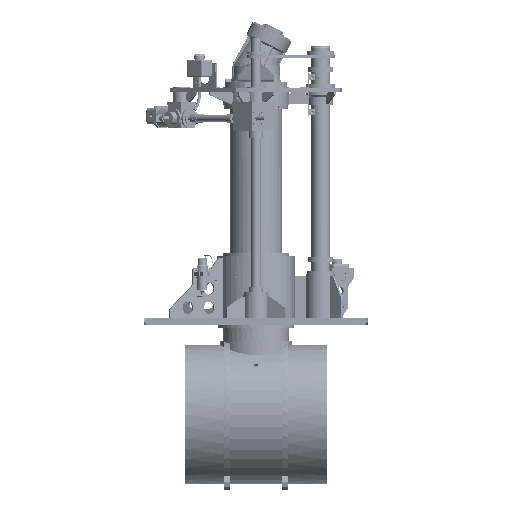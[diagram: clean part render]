
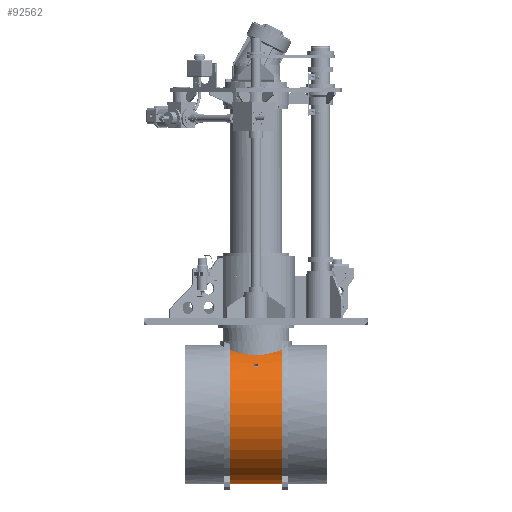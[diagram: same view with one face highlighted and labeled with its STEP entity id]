
A CAD part, front view. The second image highlights one B-rep face of the part: STEP entity #92562.
In plain terms, the highlighted cylindrical face has radius 426.4 mm (diameter 852.8 mm), a partial arc.
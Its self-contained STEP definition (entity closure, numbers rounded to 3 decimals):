
#2134=B_SPLINE_CURVE_WITH_KNOTS('',3,(#178332,#178333,#178334,#178335,#178336,
#178337,#178338,#178339,#178340,#178341),.UNSPECIFIED.,.F.,.F.,(4,2,2,2,
4),(6.781,7.346,7.911,8.476,
9.041),.UNSPECIFIED.);
#2135=B_SPLINE_CURVE_WITH_KNOTS('',3,(#178343,#178344,#178345,#178346,#178347,
#178348,#178349,#178350,#178351,#178352,#178353,#178354,#178355,#178356,
#178357,#178358,#178359,#178360),.UNSPECIFIED.,.F.,.F.,(4,2,2,2,2,2,2,2,
4),(2.26,2.825,3.39,3.956,
4.521,5.086,5.651,6.216,6.781),
 .UNSPECIFIED.);
#2136=B_SPLINE_CURVE_WITH_KNOTS('',3,(#178361,#178362,#178363,#178364,#178365,
#178366,#178367,#178368,#178369,#178370),.UNSPECIFIED.,.F.,.F.,(4,2,2,2,
4),(9.041,9.606,10.171,10.737,
11.302),.UNSPECIFIED.);
#2142=B_SPLINE_CURVE_WITH_KNOTS('',3,(#178448,#178449,#178450,#178451,#178452,
#178453,#178454,#178455,#178456,#178457,#178458,#178459,#178460,#178461,
#178462,#178463,#178464,#178465,#178466,#178467,#178468,#178469,#178470,
#178471,#178472,#178473,#178474,#178475,#178476,#178477,#178478),
 .UNSPECIFIED.,.F.,.F.,(4,2,2,2,2,2,2,3,2,2,2,2,2,2,4),(117.736,
118.544,122.786,127.027,129.148,131.269,
133.39,135.51,137.631,139.752,141.873,
143.994,148.235,152.477,153.285),
 .UNSPECIFIED.);
#7656=LINE('',#177825,#14105);
#14105=VECTOR('',#120228,10.);
#16893=CYLINDRICAL_SURFACE('',#100314,426.4);
#17895=FACE_BOUND('',#27397,.T.);
#21923=FACE_OUTER_BOUND('',#27396,.T.);
#27396=EDGE_LOOP('',(#74761,#74762,#74763,#74764));
#27397=EDGE_LOOP('',(#74765,#74766,#74767));
#32289=CIRCLE('',#100248,426.4);
#32308=CIRCLE('',#100276,426.4);
#40092=VERTEX_POINT('',#177822);
#40093=VERTEX_POINT('',#177824);
#40127=VERTEX_POINT('',#178330);
#40128=VERTEX_POINT('',#178331);
#40129=VERTEX_POINT('',#178342);
#40139=VERTEX_POINT('',#178445);
#40140=VERTEX_POINT('',#178447);
#51925=EDGE_CURVE('',#40092,#40093,#7656,.T.);
#51968=EDGE_CURVE('',#40127,#40128,#2134,.T.);
#51969=EDGE_CURVE('',#40129,#40127,#2135,.T.);
#51970=EDGE_CURVE('',#40128,#40129,#2136,.T.);
#51982=EDGE_CURVE('',#40140,#40139,#2142,.T.);
#52171=EDGE_CURVE('',#40092,#40140,#32289,.T.);
#52213=EDGE_CURVE('',#40139,#40093,#32308,.T.);
#74761=ORIENTED_EDGE('',*,*,#52171,.T.);
#74762=ORIENTED_EDGE('',*,*,#51982,.T.);
#74763=ORIENTED_EDGE('',*,*,#52213,.T.);
#74764=ORIENTED_EDGE('',*,*,#51925,.F.);
#74765=ORIENTED_EDGE('',*,*,#51969,.T.);
#74766=ORIENTED_EDGE('',*,*,#51968,.T.);
#74767=ORIENTED_EDGE('',*,*,#51970,.T.);
#92562=ADVANCED_FACE('',(#21923,#17895),#16893,.T.);
#100248=AXIS2_PLACEMENT_3D('',#179027,#120710,#120711);
#100276=AXIS2_PLACEMENT_3D('',#179120,#120787,#120788);
#100314=AXIS2_PLACEMENT_3D('',#179228,#120904,#120905);
#120228=DIRECTION('',(-1.,0.,0.));
#120710=DIRECTION('center_axis',(-1.,0.,0.));
#120711=DIRECTION('ref_axis',(0.,1.,0.));
#120787=DIRECTION('center_axis',(1.,0.,0.));
#120788=DIRECTION('ref_axis',(0.,1.,0.));
#120904=DIRECTION('center_axis',(1.,0.,0.));
#120905=DIRECTION('ref_axis',(0.,-0.573,-0.82));
#177822=CARTESIAN_POINT('',(161.,426.379,-563.692));
#177824=CARTESIAN_POINT('',(-161.,426.379,-563.692));
#177825=CARTESIAN_POINT('',(0.,426.379,-563.692));
#178330=CARTESIAN_POINT('',(-15.,-301.51,-257.99));
#178331=CARTESIAN_POINT('',(0.,-290.717,-247.57));
#178332=CARTESIAN_POINT('Ctrl Pts',(-15.,-301.51,
-257.99));
#178333=CARTESIAN_POINT('Ctrl Pts',(-15.,-300.178,
-256.658));
#178334=CARTESIAN_POINT('Ctrl Pts',(-14.624,-298.748,
-255.247));
#178335=CARTESIAN_POINT('Ctrl Pts',(-13.093,-296.1,
-252.669));
#178336=CARTESIAN_POINT('Ctrl Pts',(-11.938,-294.882,
-251.501));
#178337=CARTESIAN_POINT('Ctrl Pts',(-9.275,-292.952,
-249.665));
#178338=CARTESIAN_POINT('Ctrl Pts',(-7.588,-292.111,
-248.873));
#178339=CARTESIAN_POINT('Ctrl Pts',(-3.893,-290.993,
-247.826));
#178340=CARTESIAN_POINT('Ctrl Pts',(-1.884,-290.717,
-247.57));
#178341=CARTESIAN_POINT('Ctrl Pts',(0.,-290.717,
-247.57));
#178342=CARTESIAN_POINT('',(15.,-301.51,-257.99));
#178343=CARTESIAN_POINT('Ctrl Pts',(15.,-301.51,
-257.99));
#178344=CARTESIAN_POINT('Ctrl Pts',(15.,-302.842,
-259.322));
#178345=CARTESIAN_POINT('Ctrl Pts',(14.624,-304.253,
-260.752));
#178346=CARTESIAN_POINT('Ctrl Pts',(13.093,-306.831,-263.4));
#178347=CARTESIAN_POINT('Ctrl Pts',(11.938,-307.999,-264.618));
#178348=CARTESIAN_POINT('Ctrl Pts',(9.275,-309.835,
-266.548));
#178349=CARTESIAN_POINT('Ctrl Pts',(7.588,-310.627,
-267.389));
#178350=CARTESIAN_POINT('Ctrl Pts',(3.893,-311.674,
-268.507));
#178351=CARTESIAN_POINT('Ctrl Pts',(1.884,-311.93,
-268.783));
#178352=CARTESIAN_POINT('Ctrl Pts',(-1.884,-311.93,
-268.783));
#178353=CARTESIAN_POINT('Ctrl Pts',(-3.893,-311.674,
-268.507));
#178354=CARTESIAN_POINT('Ctrl Pts',(-7.588,-310.627,-267.389));
#178355=CARTESIAN_POINT('Ctrl Pts',(-9.275,-309.835,
-266.548));
#178356=CARTESIAN_POINT('Ctrl Pts',(-11.938,-307.999,
-264.618));
#178357=CARTESIAN_POINT('Ctrl Pts',(-13.093,-306.831,
-263.4));
#178358=CARTESIAN_POINT('Ctrl Pts',(-14.624,-304.253,
-260.752));
#178359=CARTESIAN_POINT('Ctrl Pts',(-15.,-302.842,
-259.322));
#178360=CARTESIAN_POINT('Ctrl Pts',(-15.,-301.51,
-257.99));
#178361=CARTESIAN_POINT('Ctrl Pts',(0.,-290.717,
-247.57));
#178362=CARTESIAN_POINT('Ctrl Pts',(1.884,-290.717,
-247.57));
#178363=CARTESIAN_POINT('Ctrl Pts',(3.893,-290.993,
-247.826));
#178364=CARTESIAN_POINT('Ctrl Pts',(7.588,-292.111,
-248.873));
#178365=CARTESIAN_POINT('Ctrl Pts',(9.275,-292.952,-249.665));
#178366=CARTESIAN_POINT('Ctrl Pts',(11.938,-294.882,-251.501));
#178367=CARTESIAN_POINT('Ctrl Pts',(13.093,-296.1,-252.669));
#178368=CARTESIAN_POINT('Ctrl Pts',(14.624,-298.748,
-255.247));
#178369=CARTESIAN_POINT('Ctrl Pts',(15.,-300.178,
-256.658));
#178370=CARTESIAN_POINT('Ctrl Pts',(15.,-301.51,
-257.99));
#178445=CARTESIAN_POINT('',(-161.,-150.302,-160.468));
#178447=CARTESIAN_POINT('',(161.,-150.302,-160.468));
#178448=CARTESIAN_POINT('Ctrl Pts',(161.,-150.302,
-160.468));
#178449=CARTESIAN_POINT('Ctrl Pts',(159.207,-152.227,
-161.194));
#178450=CARTESIAN_POINT('Ctrl Pts',(157.391,-154.108,
-161.918));
#178451=CARTESIAN_POINT('Ctrl Pts',(145.923,-165.575,
-166.424));
#178452=CARTESIAN_POINT('Ctrl Pts',(135.044,-174.638,
-170.402));
#178453=CARTESIAN_POINT('Ctrl Pts',(111.298,-190.683,
-178.008));
#178454=CARTESIAN_POINT('Ctrl Pts',(98.431,-197.667,
-181.63));
#178455=CARTESIAN_POINT('Ctrl Pts',(78.191,-206.138,
-186.225));
#178456=CARTESIAN_POINT('Ctrl Pts',(71.282,-208.633,
-187.619));
#178457=CARTESIAN_POINT('Ctrl Pts',(57.254,-212.918,
-190.056));
#178458=CARTESIAN_POINT('Ctrl Pts',(50.134,-214.708,
-191.098));
#178459=CARTESIAN_POINT('Ctrl Pts',(35.808,-217.561,
-192.776));
#178460=CARTESIAN_POINT('Ctrl Pts',(28.6,-218.625,
-193.411));
#178461=CARTESIAN_POINT('Ctrl Pts',(14.231,-220.03,
-194.254));
#178462=CARTESIAN_POINT('Ctrl Pts',(7.069,-220.372,
-194.462));
#178463=CARTESIAN_POINT('Ctrl Pts',(0.,-220.372,
-194.462));
#178464=CARTESIAN_POINT('Ctrl Pts',(-7.069,-220.372,
-194.462));
#178465=CARTESIAN_POINT('Ctrl Pts',(-14.231,-220.03,
-194.254));
#178466=CARTESIAN_POINT('Ctrl Pts',(-28.6,-218.625,
-193.411));
#178467=CARTESIAN_POINT('Ctrl Pts',(-35.808,-217.561,
-192.776));
#178468=CARTESIAN_POINT('Ctrl Pts',(-50.134,-214.708,
-191.098));
#178469=CARTESIAN_POINT('Ctrl Pts',(-57.254,-212.918,
-190.056));
#178470=CARTESIAN_POINT('Ctrl Pts',(-71.282,-208.633,
-187.619));
#178471=CARTESIAN_POINT('Ctrl Pts',(-78.191,-206.138,
-186.225));
#178472=CARTESIAN_POINT('Ctrl Pts',(-98.431,-197.667,
-181.63));
#178473=CARTESIAN_POINT('Ctrl Pts',(-111.298,-190.683,
-178.008));
#178474=CARTESIAN_POINT('Ctrl Pts',(-135.044,-174.638,
-170.402));
#178475=CARTESIAN_POINT('Ctrl Pts',(-145.923,-165.575,
-166.424));
#178476=CARTESIAN_POINT('Ctrl Pts',(-157.391,-154.108,
-161.918));
#178477=CARTESIAN_POINT('Ctrl Pts',(-159.207,-152.227,
-161.194));
#178478=CARTESIAN_POINT('Ctrl Pts',(-161.,-150.302,
-160.468));
#179027=CARTESIAN_POINT('Origin',(161.,0.,
-559.5));
#179120=CARTESIAN_POINT('Origin',(-161.,0.,
-559.5));
#179228=CARTESIAN_POINT('Origin',(0.,0.,
-559.5));
